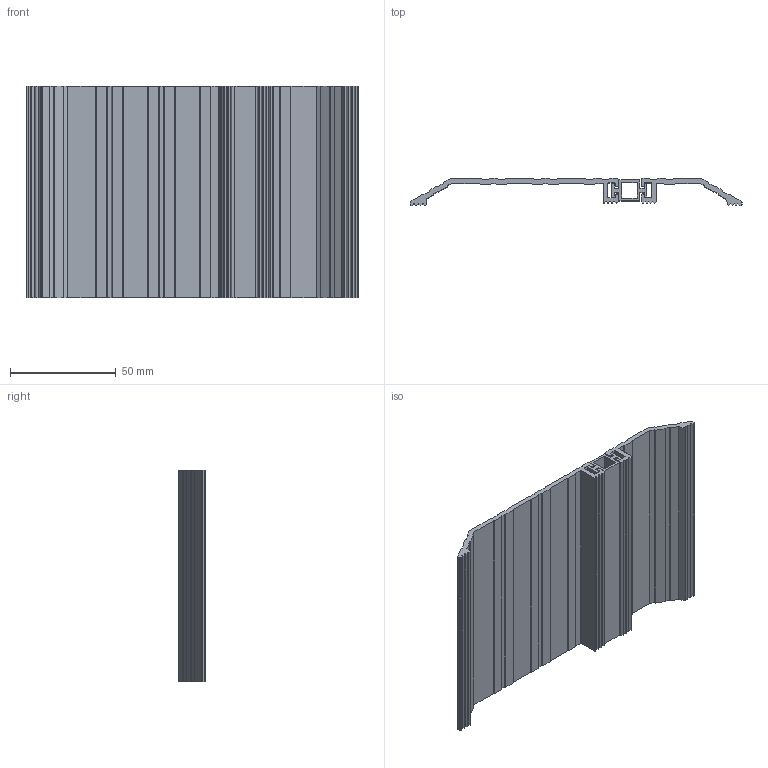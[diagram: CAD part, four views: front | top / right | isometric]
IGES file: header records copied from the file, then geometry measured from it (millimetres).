
Global section: file name: No Iges File Name specified; native system: Autodesk Inventor 2012; preprocessor: AutoDesk Inventor Iges Exporter R2012; author: anna.b; date: 20130725.115313; units: millimetre
Bounding box: 156.86 x 12.7 x 100 mm (x, y, z)
Volume: 50459.5 mm3; surface area: 50573.8 mm2
Topology: 3 solids, 3 shells, 224 faces, 654 edges, 436 vertices
Faces by surface type: plane 185, cylinder 23, revolution 16
